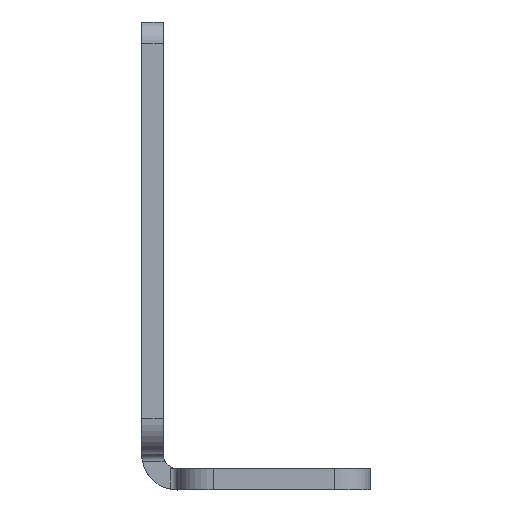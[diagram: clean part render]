
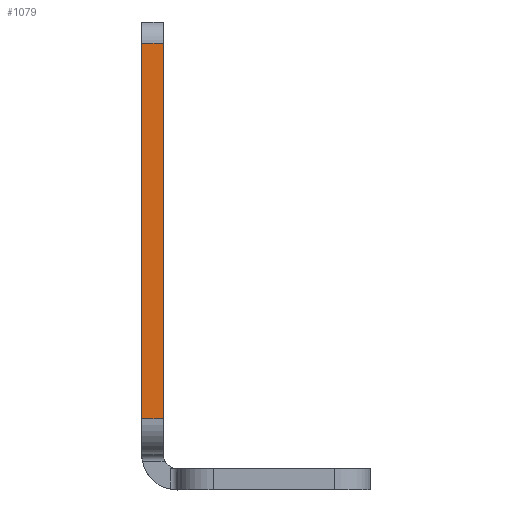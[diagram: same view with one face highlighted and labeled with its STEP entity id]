
A CAD part, left-side view. The second image highlights one B-rep face of the part: STEP entity #1079.
In plain terms, the highlighted planar face has unit normal (-1, 0, 0).
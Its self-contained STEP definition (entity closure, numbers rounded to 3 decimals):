
#35 = EDGE_CURVE ( 'NONE', #424, #679, #1493, .T. ) ;
#43 = ORIENTED_EDGE ( 'NONE', *, *, #35, .T. ) ;
#44 = EDGE_CURVE ( 'NONE', #1749, #473, #1470, .T. ) ;
#99 = CARTESIAN_POINT ( 'NONE',  ( -151.5, 5., -32.05 ) ) ;
#123 = EDGE_CURVE ( 'NONE', #679, #1749, #219, .T. ) ;
#124 = VECTOR ( 'NONE', #1370, 1000. ) ;
#140 = AXIS2_PLACEMENT_3D ( 'NONE', #487, #1845, #1404 ) ;
#217 = LINE ( 'NONE', #1196, #862 ) ;
#219 = LINE ( 'NONE', #1221, #124 ) ;
#292 = EDGE_CURVE ( 'NONE', #473, #424, #217, .T. ) ;
#424 = VERTEX_POINT ( 'NONE', #1235 ) ;
#473 = VERTEX_POINT ( 'NONE', #1225 ) ;
#478 = ORIENTED_EDGE ( 'NONE', *, *, #123, .T. ) ;
#487 = CARTESIAN_POINT ( 'NONE',  ( -151.5, -19.54, -43.301 ) ) ;
#518 = EDGE_LOOP ( 'NONE', ( #43, #478, #1659, #915 ) ) ;
#576 = DIRECTION ( 'NONE',  ( 0., 0., -1. ) ) ;
#612 = VECTOR ( 'NONE', #1338, 1000. ) ;
#679 = VERTEX_POINT ( 'NONE', #99 ) ;
#781 = PLANE ( 'NONE',  #140 ) ;
#862 = VECTOR ( 'NONE', #576, 1000. ) ;
#915 = ORIENTED_EDGE ( 'NONE', *, *, #292, .T. ) ;
#959 = FACE_OUTER_BOUND ( 'NONE', #518, .T. ) ;
#1018 = VECTOR ( 'NONE', #1323, 1000. ) ;
#1079 = ADVANCED_FACE ( 'NONE', ( #959 ), #781, .T. ) ;
#1170 = CARTESIAN_POINT ( 'NONE',  ( -151.5, 6.5, 20.5 ) ) ;
#1196 = CARTESIAN_POINT ( 'NONE',  ( -151.5, 8., -10.775 ) ) ;
#1221 = CARTESIAN_POINT ( 'NONE',  ( -151.5, 5., -7.275 ) ) ;
#1225 = CARTESIAN_POINT ( 'NONE',  ( -151.5, 8., 20.5 ) ) ;
#1235 = CARTESIAN_POINT ( 'NONE',  ( -151.5, 8., -32.05 ) ) ;
#1323 = DIRECTION ( 'NONE',  ( 0., -1., 0. ) ) ;
#1338 = DIRECTION ( 'NONE',  ( 0., 1., 0. ) ) ;
#1370 = DIRECTION ( 'NONE',  ( 0., 0., 1. ) ) ;
#1404 = DIRECTION ( 'NONE',  ( 0., 0., 1. ) ) ;
#1470 = LINE ( 'NONE', #1170, #612 ) ;
#1493 = LINE ( 'NONE', #1781, #1018 ) ;
#1659 = ORIENTED_EDGE ( 'NONE', *, *, #44, .T. ) ;
#1749 = VERTEX_POINT ( 'NONE', #1820 ) ;
#1781 = CARTESIAN_POINT ( 'NONE',  ( -151.5, -5.5, -32.05 ) ) ;
#1820 = CARTESIAN_POINT ( 'NONE',  ( -151.5, 5., 20.5 ) ) ;
#1845 = DIRECTION ( 'NONE',  ( -1., 0., 0. ) ) ;
